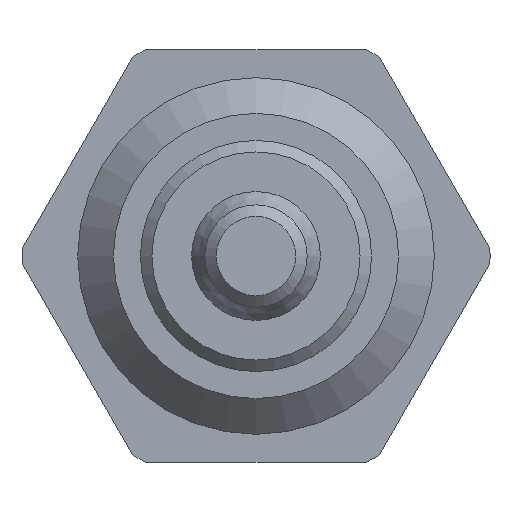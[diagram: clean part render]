
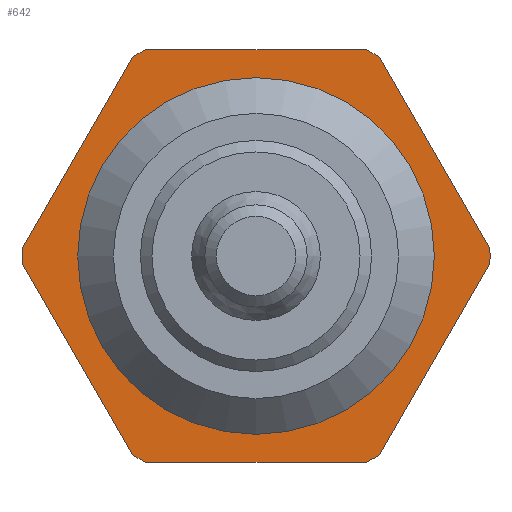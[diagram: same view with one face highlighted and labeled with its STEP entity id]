
A CAD part, left-side view. The second image highlights one B-rep face of the part: STEP entity #642.
In plain terms, the highlighted planar face has unit normal (-1, 0, 0).
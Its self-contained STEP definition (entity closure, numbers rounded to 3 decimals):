
#12=LINE($,#1015,#36);
#16=LINE($,#1024,#40);
#20=LINE($,#1033,#44);
#24=LINE($,#1042,#48);
#28=LINE($,#1051,#52);
#35=LINE($,#1082,#59);
#36=VECTOR($,#836,3.394);
#40=VECTOR($,#842,3.394);
#44=VECTOR($,#848,3.394);
#48=VECTOR($,#854,3.394);
#52=VECTOR($,#860,3.394);
#59=VECTOR($,#903,3.394);
#77=PLANE($,#730);
#130=FACE_BOUND($,#240,.T.);
#167=FACE_OUTER_BOUND($,#239,.T.);
#239=EDGE_LOOP($,(#524,#525,#526,#527,#528,#529,#530,#531,#532,#533,#534,
#535));
#240=EDGE_LOOP($,(#536));
#278=CIRCLE($,#710,3.6);
#279=CIRCLE($,#712,3.6);
#280=CIRCLE($,#714,3.6);
#281=CIRCLE($,#716,3.6);
#282=CIRCLE($,#718,3.6);
#287=CIRCLE($,#729,2.121);
#288=CIRCLE($,#731,3.6);
#315=VERTEX_POINT($,#1013);
#316=VERTEX_POINT($,#1014);
#319=VERTEX_POINT($,#1022);
#320=VERTEX_POINT($,#1023);
#323=VERTEX_POINT($,#1031);
#324=VERTEX_POINT($,#1032);
#327=VERTEX_POINT($,#1040);
#328=VERTEX_POINT($,#1041);
#331=VERTEX_POINT($,#1049);
#332=VERTEX_POINT($,#1050);
#337=VERTEX_POINT($,#1068);
#338=VERTEX_POINT($,#1072);
#343=VERTEX_POINT($,#1096);
#370=EDGE_CURVE($,#315,#316,#12,.T.);
#374=EDGE_CURVE($,#319,#320,#16,.T.);
#378=EDGE_CURVE($,#323,#324,#20,.T.);
#382=EDGE_CURVE($,#327,#328,#24,.T.);
#386=EDGE_CURVE($,#331,#332,#28,.T.);
#397=EDGE_CURVE($,#315,#337,#278,.T.);
#400=EDGE_CURVE($,#338,#332,#279,.T.);
#401=EDGE_CURVE($,#331,#328,#280,.T.);
#402=EDGE_CURVE($,#327,#324,#281,.T.);
#403=EDGE_CURVE($,#323,#320,#282,.T.);
#404=EDGE_CURVE($,#338,#337,#35,.T.);
#409=EDGE_CURVE($,#343,#343,#287,.T.);
#410=EDGE_CURVE($,#319,#316,#288,.T.);
#524=ORIENTED_EDGE($,*,*,#370,.T.);
#525=ORIENTED_EDGE($,*,*,#410,.F.);
#526=ORIENTED_EDGE($,*,*,#374,.T.);
#527=ORIENTED_EDGE($,*,*,#403,.F.);
#528=ORIENTED_EDGE($,*,*,#378,.T.);
#529=ORIENTED_EDGE($,*,*,#402,.F.);
#530=ORIENTED_EDGE($,*,*,#382,.T.);
#531=ORIENTED_EDGE($,*,*,#401,.F.);
#532=ORIENTED_EDGE($,*,*,#386,.T.);
#533=ORIENTED_EDGE($,*,*,#400,.F.);
#534=ORIENTED_EDGE($,*,*,#404,.T.);
#535=ORIENTED_EDGE($,*,*,#397,.F.);
#536=ORIENTED_EDGE($,*,*,#409,.T.);
#642=ADVANCED_FACE($,(#167,#130),#77,.T.);
#710=AXIS2_PLACEMENT_3D($,#1069,#881,#882);
#712=AXIS2_PLACEMENT_3D($,#1074,#887,#888);
#714=AXIS2_PLACEMENT_3D($,#1076,#891,#892);
#716=AXIS2_PLACEMENT_3D($,#1078,#895,#896);
#718=AXIS2_PLACEMENT_3D($,#1080,#899,#900);
#729=AXIS2_PLACEMENT_3D($,#1097,#922,#923);
#730=AXIS2_PLACEMENT_3D($,#1098,#924,#925);
#731=AXIS2_PLACEMENT_3D($,#1099,#926,#927);
#836=DIRECTION($,(0.,-0.5,0.866));
#842=DIRECTION($,(0.,0.5,0.866));
#848=DIRECTION($,(0.,1.,0.));
#854=DIRECTION($,(0.,0.5,-0.866));
#860=DIRECTION($,(0.,-0.5,-0.866));
#881=DIRECTION('center_axis',(1.,0.,0.));
#882=DIRECTION('ref_axis',(0.,0.,
-1.));
#887=DIRECTION('center_axis',(1.,0.,0.));
#888=DIRECTION('ref_axis',(0.,0.,
-1.));
#891=DIRECTION('center_axis',(1.,0.,0.));
#892=DIRECTION('ref_axis',(0.,0.,
-1.));
#895=DIRECTION('center_axis',(1.,0.,0.));
#896=DIRECTION('ref_axis',(0.,0.,
-1.));
#899=DIRECTION('center_axis',(1.,0.,0.));
#900=DIRECTION('ref_axis',(0.,0.,
-1.));
#903=DIRECTION($,(0.,-1.,0.));
#922=DIRECTION('center_axis',(1.,0.,0.));
#923=DIRECTION('ref_axis',(0.,0.,
-1.));
#924=DIRECTION('center_axis',(-1.,0.,0.));
#925=DIRECTION('ref_axis',(0.,0.,1.));
#926=DIRECTION('center_axis',(1.,0.,0.));
#927=DIRECTION('ref_axis',(0.,0.,
-1.));
#1013=CARTESIAN_POINT('',(-12.236,-1.75,-5.392));
#1014=CARTESIAN_POINT('',(-12.236,-3.447,-2.453));
#1015=CARTESIAN_POINT($,(-12.236,-2.019,-4.927));
#1022=CARTESIAN_POINT('',(-12.236,-3.447,-2.217));
#1023=CARTESIAN_POINT('',(-12.236,-1.75,0.722));
#1024=CARTESIAN_POINT($,(-12.236,-2.278,-0.193));
#1031=CARTESIAN_POINT('',(-12.236,-1.546,0.84));
#1032=CARTESIAN_POINT('',(-12.236,1.848,0.84));
#1033=CARTESIAN_POINT($,(-12.236,1.692,0.84));
#1040=CARTESIAN_POINT('',(-12.236,2.052,0.722));
#1041=CARTESIAN_POINT('',(-12.236,3.749,-2.217));
#1042=CARTESIAN_POINT($,(-12.236,3.221,-1.303));
#1049=CARTESIAN_POINT('',(-12.236,3.749,-2.453));
#1050=CARTESIAN_POINT('',(-12.236,2.052,-5.392));
#1051=CARTESIAN_POINT($,(-12.236,3.48,-2.919));
#1068=CARTESIAN_POINT('',(-12.236,-1.546,-5.51));
#1069=CARTESIAN_POINT('Origin',(-12.236,0.151,-2.335));
#1072=CARTESIAN_POINT('',(-12.236,1.848,-5.51));
#1074=CARTESIAN_POINT('Origin',(-12.236,0.151,-2.335));
#1076=CARTESIAN_POINT('Origin',(-12.236,0.151,-2.335));
#1078=CARTESIAN_POINT('Origin',(-12.236,0.151,-2.335));
#1080=CARTESIAN_POINT('Origin',(-12.236,0.151,-2.335));
#1082=CARTESIAN_POINT($,(-12.236,2.21,-5.51));
#1096=CARTESIAN_POINT('',(-12.236,2.272,-2.335));
#1097=CARTESIAN_POINT('Origin',(-12.236,0.151,-2.335));
#1098=CARTESIAN_POINT('Origin',(-12.236,3.751,-2.335));
#1099=CARTESIAN_POINT('Origin',(-12.236,0.151,-2.335));
